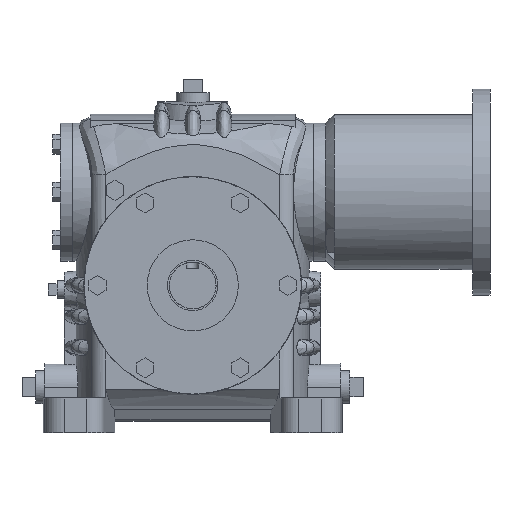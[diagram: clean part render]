
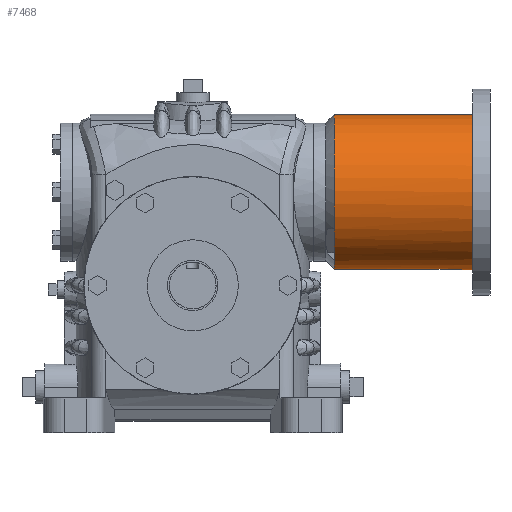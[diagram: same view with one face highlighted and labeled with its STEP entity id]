
A CAD part, front view. The second image highlights one B-rep face of the part: STEP entity #7468.
In plain terms, the highlighted cylindrical face has radius 63.5 mm (diameter 127 mm), a full revolution.
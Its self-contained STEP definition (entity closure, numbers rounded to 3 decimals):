
#411=B_SPLINE_CURVE_WITH_KNOTS('',3,(#16944,#16945,#16946,#16947,#16948,
#16949,#16950,#16951,#16952,#16953),.UNSPECIFIED.,.F.,.F.,(4,1,1,1,1,1,
1,4),(0.,0.002,0.005,0.007,0.01,
0.012,0.015,0.02),.UNSPECIFIED.);
#504=CYLINDRICAL_SURFACE('',#9183,63.5);
#948=LINE('',#16942,#1529);
#949=LINE('',#16955,#1530);
#1529=VECTOR('',#10662,1000.);
#1530=VECTOR('',#10663,1000.);
#3356=ORIENTED_EDGE('',*,*,#4613,.F.);
#3357=ORIENTED_EDGE('',*,*,#4614,.F.);
#3358=ORIENTED_EDGE('',*,*,#4615,.F.);
#3359=ORIENTED_EDGE('',*,*,#4499,.T.);
#3360=ORIENTED_EDGE('',*,*,#4616,.T.);
#3361=ORIENTED_EDGE('',*,*,#4493,.T.);
#3362=ORIENTED_EDGE('',*,*,#4612,.F.);
#4493=EDGE_CURVE('',#5314,#5315,#5642,.T.);
#4499=EDGE_CURVE('',#5320,#5319,#5644,.T.);
#4612=EDGE_CURVE('',#5402,#5402,#5664,.T.);
#4613=EDGE_CURVE('',#5403,#5315,#948,.F.);
#4614=EDGE_CURVE('',#5404,#5403,#411,.T.);
#4615=EDGE_CURVE('',#5320,#5404,#949,.T.);
#4616=EDGE_CURVE('',#5319,#5314,#5665,.T.);
#5314=VERTEX_POINT('',#16663);
#5315=VERTEX_POINT('',#16664);
#5319=VERTEX_POINT('',#16686);
#5320=VERTEX_POINT('',#16688);
#5402=VERTEX_POINT('',#16940);
#5403=VERTEX_POINT('',#16943);
#5404=VERTEX_POINT('',#16954);
#5642=CIRCLE('',#9112,63.5);
#5644=CIRCLE('',#9114,63.5);
#5664=CIRCLE('',#9182,63.5);
#5665=CIRCLE('',#9184,63.5);
#6134=EDGE_LOOP('',(#3356,#3357,#3358,#3359,#3360,#3361));
#6135=EDGE_LOOP('',(#3362));
#6717=FACE_BOUND('',#6134,.T.);
#6718=FACE_BOUND('',#6135,.T.);
#7468=ADVANCED_FACE('',(#6717,#6718),#504,.T.);
#9112=AXIS2_PLACEMENT_3D('',#16662,#10428,#10429);
#9114=AXIS2_PLACEMENT_3D('',#16687,#10432,#10433);
#9182=AXIS2_PLACEMENT_3D('',#16939,#10658,#10659);
#9183=AXIS2_PLACEMENT_3D('',#16941,#10660,#10661);
#9184=AXIS2_PLACEMENT_3D('',#16956,#10664,#10665);
#10428=DIRECTION('',(1.,0.,0.));
#10429=DIRECTION('',(0.,0.,-1.));
#10432=DIRECTION('',(1.,0.,0.));
#10433=DIRECTION('',(0.,0.,-1.));
#10658=DIRECTION('',(1.,0.,0.));
#10659=DIRECTION('',(0.,0.,-1.));
#10660=DIRECTION('',(1.,0.,0.));
#10661=DIRECTION('',(0.,0.,-1.));
#10662=DIRECTION('',(1.,0.,0.));
#10663=DIRECTION('',(1.,0.,0.));
#10664=DIRECTION('',(1.,0.,0.));
#10665=DIRECTION('',(0.,0.,-1.));
#16662=CARTESIAN_POINT('',(17.241,0.,0.));
#16663=CARTESIAN_POINT('',(17.241,-29.972,-55.982));
#16664=CARTESIAN_POINT('',(17.241,-6.35,-63.182));
#16686=CARTESIAN_POINT('',(17.241,-55.982,-29.972));
#16687=CARTESIAN_POINT('',(17.241,0.,0.));
#16688=CARTESIAN_POINT('',(17.241,6.35,-63.182));
#16939=CARTESIAN_POINT('',(130.239,0.,0.));
#16940=CARTESIAN_POINT('',(130.239,0.,-63.5));
#16941=CARTESIAN_POINT('',(98.425,0.,0.));
#16942=CARTESIAN_POINT('',(98.425,-6.35,-63.182));
#16943=CARTESIAN_POINT('',(116.777,-6.35,-63.182));
#16944=CARTESIAN_POINT('',(116.777,6.35,-63.182));
#16945=CARTESIAN_POINT('',(117.616,6.35,-63.182));
#16946=CARTESIAN_POINT('',(119.269,6.018,-63.216));
#16947=CARTESIAN_POINT('',(121.384,4.606,-63.341));
#16948=CARTESIAN_POINT('',(122.794,2.497,-63.466));
#16949=CARTESIAN_POINT('',(123.292,0.005,-63.517));
#16950=CARTESIAN_POINT('',(122.798,-2.488,-63.466));
#16951=CARTESIAN_POINT('',(120.916,-5.314,-63.298));
#16952=CARTESIAN_POINT('',(118.455,-6.35,-63.182));
#16953=CARTESIAN_POINT('',(116.777,-6.35,-63.182));
#16954=CARTESIAN_POINT('',(116.777,6.35,-63.182));
#16955=CARTESIAN_POINT('',(98.425,6.35,-63.182));
#16956=CARTESIAN_POINT('',(17.241,0.,0.));
